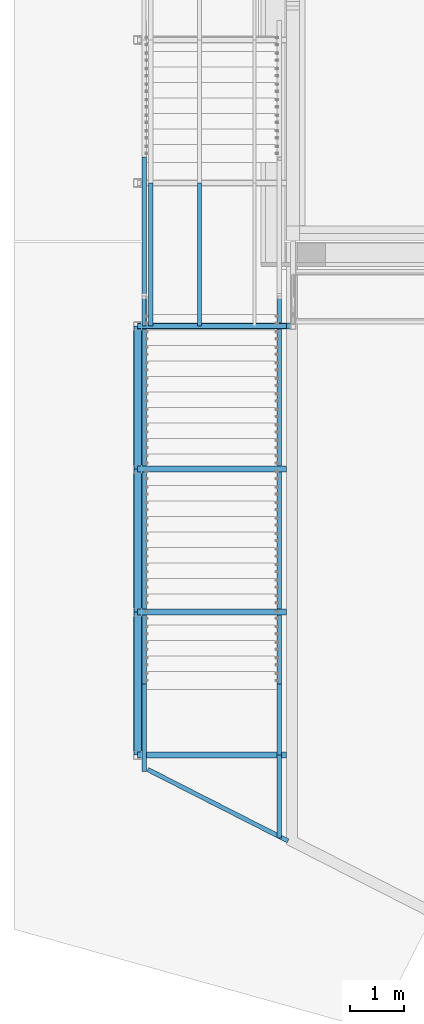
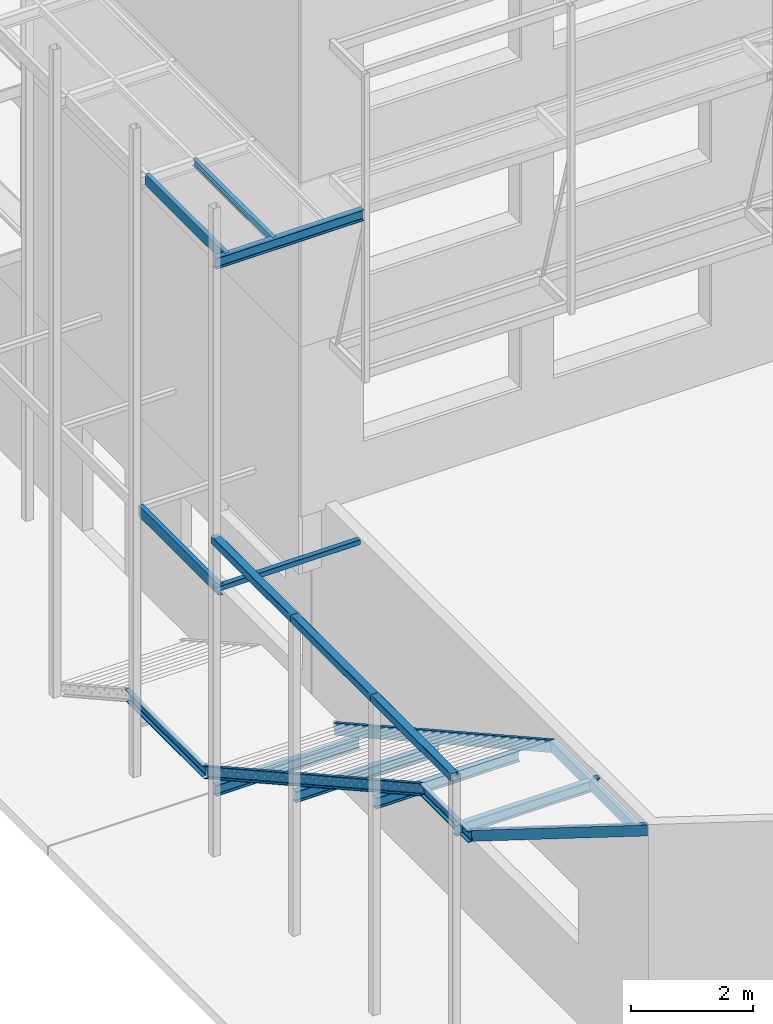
# One storey, part 19 of 78: 17 beams, 2 members, 17 elements without a shape of their own.
"""IFC2X3 building model written with IfcOpenShell, lengths in millimetres."""

from ifc_helpers import new_model, si_unit, frame, origin_with_axes, origin_2d_with_axis, place, context, subcontext, project, spatial, hollow_rectangle, i_section, u_section, extrude, clip, halfspace, material, type_object, element, aggregate, save


model = new_model("IFC2X3")

# Units and contexts
model_context = context("Model", 3, precision=1e-05, world=origin_with_axes())
body_context = subcontext(model_context, "Body", "Model", "MODEL_VIEW")
ifc_project = project(units=[si_unit("LENGTHUNIT", "METRE", prefix="MILLI"), si_unit("AREAUNIT", "SQUARE_METRE"), si_unit("VOLUMEUNIT", "CUBIC_METRE"), si_unit("MASSUNIT", "GRAM", prefix="KILO"), si_unit("TIMEUNIT", "SECOND"), si_unit("PLANEANGLEUNIT", "RADIAN"), si_unit("SOLIDANGLEUNIT", "STERADIAN"), si_unit("THERMODYNAMICTEMPERATUREUNIT", "DEGREE_CELSIUS"), si_unit("LUMINOUSINTENSITYUNIT", "LUMEN")], contexts=[model_context])

# Site, building, storey
site_placement = place(None, origin_with_axes())
site = spatial("IfcSite", under=ifc_project, at=site_placement, Name="Site", CompositionType="ELEMENT")
building_placement = place(site_placement, origin_with_axes())
building = spatial("IfcBuilding", under=site, at=building_placement, Name="Undefined", CompositionType="ELEMENT")
storey_placement = place(building_placement, origin_with_axes())
storey = spatial("IfcBuildingStorey", under=building, at=storey_placement, Name="Undefined", CompositionType="ELEMENT", Elevation=0.0)

# Assembly, beam
assembly_1_placement = place(storey_placement, origin_with_axes())
assembly_1 = element("IfcElementAssembly", 1, at=assembly_1_placement, inside=storey, AssemblyPlace="NOTDEFINED", PredefinedType="RIGID_FRAME")
ifc_material_1 = material(Name="STEEL/S235JR")
beam_type_1 = type_object("IfcBeamType", Name="UPN220", PredefinedType="NOTDEFINED")
beam_1_placement = place(assembly_1_placement, frame((-30736.43, -16532.0040553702, 153260.04001364), z_axis=(0.0, 0.0, -1.0), x_axis=(0.0, -1.0, 0.0)))
beam_1 = element("IfcBeam", 2, at=beam_1_placement, type_object=beam_type_1, material=ifc_material_1, Name="LIMON", ObjectType="UPN220", context=body_context, shape_type="SweptSolid", body=[
    extrude(u_section(Depth=220.0, FlangeWidth=80.0, WebThickness=9.0, FlangeThickness=12.5, FilletRadius=12.5, EdgeRadius=6.5, FlangeSlope=0.0798299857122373, at=origin_2d_with_axis()), frame((1517.82, 0.0, 0.0), z_axis=(-1.0, 0.0, 0.0), x_axis=(0.0, -1.0, 0.0)), (0.0, 0.0, 1.0), 1517.82),
])
aggregate(assembly_1, [beam_1])

assembly_2_placement = place(storey_placement, origin_with_axes())
assembly_2 = element("IfcElementAssembly", 3, at=assembly_2_placement, inside=storey, AssemblyPlace="NOTDEFINED", PredefinedType="RIGID_FRAME")
beam_2_placement = place(assembly_2_placement, frame((-30736.43, -16532.0040553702, 153260.04001364), z_axis=(0.0, 0.0, 1.0), x_axis=(0.0, 1.0, 0.0)))
beam_2 = element("IfcBeam", 4, at=beam_2_placement, type_object=beam_type_1, material=ifc_material_1, Name="LIMON", ObjectType="UPN220", context=body_context, shape_type="Clipping", body=[
    clip(extrude(u_section(Depth=220.0, FlangeWidth=80.0, WebThickness=9.0, FlangeThickness=12.5, FilletRadius=12.5, EdgeRadius=6.5, FlangeSlope=0.0798299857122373, at=origin_2d_with_axis()), frame((1304.05967117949, 0.0, 0.0), z_axis=(-1.0, 0.0, 0.0), x_axis=(0.0, -1.0, 0.0)), (0.0, 0.0, 1.0), 1304.06), halfspace(frame((1303.77358416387, -39.999999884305, 109.999999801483), z_axis=(-0.967803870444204, 0.0, 0.251705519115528), x_axis=(0.0, -1.0, 0.0)), True)),
])

assembly_3_placement = place(storey_placement, origin_with_axes())
assembly_3 = element("IfcElementAssembly", 5, at=assembly_3_placement, inside=storey, AssemblyPlace="NOTDEFINED", PredefinedType="RIGID_FRAME")
beam_3_placement = place(assembly_3_placement, frame((-33216.4300000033, -15228.2304689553, 153260.040013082), z_axis=(0.0, 0.0, 1.0), x_axis=(0.0, -1.0, 0.0)))
beam_3 = element("IfcBeam", 6, at=beam_3_placement, type_object=beam_type_1, material=ifc_material_1, Name="LIMON", ObjectType="UPN220", context=body_context, shape_type="Clipping", body=[
    clip(extrude(u_section(Depth=220.0, FlangeWidth=80.0, WebThickness=9.0, FlangeThickness=12.5, FilletRadius=12.5, EdgeRadius=6.5, FlangeSlope=0.0798299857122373, at=origin_2d_with_axis()), frame((1603.7735848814, 0.0, 0.0), z_axis=(-1.0, 0.0, 0.0), x_axis=(0.0, -1.0, 0.0)), (0.0, 0.0, 1.0), 1604.06), halfspace(frame((-1.64160519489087e-06, -39.9999999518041, 109.99999989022), z_axis=(-0.967803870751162, 0.0, -0.251705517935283), x_axis=(0.0, -1.0, 0.0)), False)),
])

assembly_4_placement = place(storey_placement, origin_with_axes())
assembly_4 = element("IfcElementAssembly", 7, at=assembly_4_placement, inside=storey, AssemblyPlace="NOTDEFINED", PredefinedType="RIGID_FRAME")
beam_4_placement = place(assembly_4_placement, frame((-33216.4300000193, -5553.23046907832, 149285.04001331), z_axis=(0.0, 0.0, 1.0), x_axis=(0.0, -1.0, 0.0)))
beam_4 = element("IfcBeam", 8, at=beam_4_placement, type_object=beam_type_1, material=ifc_material_1, Name="LIMON", ObjectType="UPN220", context=body_context, shape_type="Clipping", body=[
    clip(extrude(u_section(Depth=220.0, FlangeWidth=80.0, WebThickness=9.0, FlangeThickness=12.5, FilletRadius=12.5, EdgeRadius=6.5, FlangeSlope=0.0798299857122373, at=origin_2d_with_axis()), frame((2553.77358483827, 0.0, 0.0), z_axis=(-1.0, 0.0, 0.0), x_axis=(0.0, -1.0, 0.0)), (0.0, 0.0, 1.0), 2554.06), halfspace(frame((-1.64160519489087e-06, -39.9999999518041, 109.99999989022), z_axis=(-0.967803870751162, 0.0, -0.251705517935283), x_axis=(0.0, -1.0, 0.0)), False)),
])
aggregate(assembly_4, [beam_4])

assembly_5_placement = place(storey_placement, origin_with_axes())
assembly_5 = element("IfcElementAssembly", 9, at=assembly_5_placement, inside=storey, Name="POUTRE", AssemblyPlace="NOTDEFINED", PredefinedType="RIGID_FRAME")
ifc_material_2 = material(Name="STEEL/S275JR")
beam_5_placement = place(assembly_5_placement, frame((-33154.7863721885, -16794.5155558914, 153260.040011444), z_axis=(0.0, 0.0, -1.0), x_axis=(0.891212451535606, -0.453586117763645, 0.0)))
beam_5 = element("IfcBeam", 10, at=beam_5_placement, type_object=beam_type_1, material=ifc_material_2, Name="POUTRE", ObjectType="UPN220", context=body_context, shape_type="SweptSolid", body=[
    extrude(u_section(Depth=220.0, FlangeWidth=80.0, WebThickness=9.0, FlangeThickness=12.5, FilletRadius=12.5, EdgeRadius=6.5, FlangeSlope=0.0798299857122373, at=origin_2d_with_axis()), frame((2889.99643857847, -1.60427029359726e-13, 2.91038304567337e-11), z_axis=(-1.0, 0.0, 0.0), x_axis=(0.0, -1.0, 0.0)), (0.0, 0.0, 1.0), 2890.0),
])
aggregate(assembly_5, [beam_5])

assembly_6_placement = place(storey_placement, origin_with_axes())
assembly_6 = element("IfcElementAssembly", 11, at=assembly_6_placement, inside=storey, AssemblyPlace="NOTDEFINED", PredefinedType="RIGID_FRAME")
beam_6_placement = place(assembly_6_placement, frame((-33223.4299999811, -6028.00000000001, 153260.039237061), z_axis=(0.0, 0.0, -1.0), x_axis=(0.0, -1.0, 0.0)))
beam_6 = element("IfcBeam", 12, at=beam_6_placement, type_object=beam_type_1, material=ifc_material_2, Name="SOLIVE", ObjectType="UPN220", context=body_context, shape_type="SweptSolid", body=[
    extrude(u_section(Depth=220.0, FlangeWidth=80.0, WebThickness=9.0, FlangeThickness=12.5, FilletRadius=12.5, EdgeRadius=6.5, FlangeSlope=0.0798299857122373, at=origin_2d_with_axis()), frame((2626.0, 0.0, 0.0), z_axis=(-1.0, 0.0, 0.0), x_axis=(0.0, -1.0, 0.0)), (0.0, 0.0, 1.0), 2626.0),
])
aggregate(assembly_6, [beam_6])

assembly_7_placement = place(storey_placement, origin_with_axes())
assembly_7 = element("IfcElementAssembly", 13, at=assembly_7_placement, inside=storey, AssemblyPlace="NOTDEFINED", PredefinedType="RIGID_FRAME")
beam_7_placement = place(assembly_7_placement, frame((-33101.4299999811, -6028.00000000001, 159860.039237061), z_axis=(0.0, 0.0, -1.0), x_axis=(0.0, -1.0, 0.0)))
beam_7 = element("IfcBeam", 14, at=beam_7_placement, type_object=beam_type_1, material=ifc_material_2, Name="SOLIVE", ObjectType="UPN220", context=body_context, shape_type="SweptSolid", body=[
    extrude(u_section(Depth=220.0, FlangeWidth=80.0, WebThickness=9.0, FlangeThickness=12.5, FilletRadius=12.5, EdgeRadius=6.5, FlangeSlope=0.0798299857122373, at=origin_2d_with_axis()), frame((2626.0, 0.0, 0.0), z_axis=(-1.0, 0.0, 0.0), x_axis=(0.0, -1.0, 0.0)), (0.0, 0.0, 1.0), 2626.0),
])
aggregate(assembly_7, [beam_7])

assembly_8_placement = place(storey_placement, origin_with_axes())
assembly_8 = element("IfcElementAssembly", 15, at=assembly_8_placement, inside=storey, AssemblyPlace="NOTDEFINED", PredefinedType="RIGID_FRAME")
beam_type_2 = type_object("IfcBeamType", Name="TUBE-C-150*150*5", PredefinedType="NOTDEFINED")
beam_8_placement = place(assembly_8_placement, frame((-33338.43, -8654.00000000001, 154325.04), z_axis=(0.0, 0.0, -1.0), x_axis=(0.0, -1.0, 0.0)))
beam_8 = element("IfcBeam", 16, at=beam_8_placement, type_object=beam_type_2, material=ifc_material_2, Name="SOLIVE", ObjectType="TUBE-C-150*150*5", context=body_context, shape_type="SweptSolid", body=[
    extrude(hollow_rectangle(XDim=150.0, YDim=150.0, WallThickness=5.0, InnerFilletRadius=5.0, OuterFilletRadius=10.0, at=origin_2d_with_axis()), frame((2626.0, 0.0, 0.0), z_axis=(-1.0, 0.0, 0.0), x_axis=(0.0, -1.0, 0.0)), (0.0, 0.0, 1.0), 2626.0),
])
aggregate(assembly_8, [beam_8])

assembly_9_placement = place(storey_placement, origin_with_axes())
assembly_9 = element("IfcElementAssembly", 17, at=assembly_9_placement, inside=storey, AssemblyPlace="NOTDEFINED", PredefinedType="RIGID_FRAME")
beam_9_placement = place(assembly_9_placement, frame((-33338.43, -13906.0, 154325.04), z_axis=(0.0, 0.0, -1.0), x_axis=(0.0, -1.0, 0.0)))
beam_9 = element("IfcBeam", 18, at=beam_9_placement, type_object=beam_type_2, material=ifc_material_2, Name="SOLIVE", ObjectType="TUBE-C-150*150*5", context=body_context, shape_type="SweptSolid", body=[
    extrude(hollow_rectangle(XDim=150.0, YDim=150.0, WallThickness=5.0, InnerFilletRadius=5.0, OuterFilletRadius=10.0, at=origin_2d_with_axis()), frame((2626.0, 0.0, 0.0), z_axis=(-1.0, 0.0, 0.0), x_axis=(0.0, -1.0, 0.0)), (0.0, 0.0, 1.0), 2626.0),
])
aggregate(assembly_9, [beam_9])

assembly_10_placement = place(storey_placement, origin_with_axes())
assembly_10 = element("IfcElementAssembly", 19, at=assembly_10_placement, inside=storey, AssemblyPlace="NOTDEFINED", PredefinedType="RIGID_FRAME")
beam_10_placement = place(assembly_10_placement, frame((-33338.43, -11280.0, 154325.04), z_axis=(0.0, 0.0, -1.0), x_axis=(0.0, -1.0, 0.0)))
beam_10 = element("IfcBeam", 20, at=beam_10_placement, type_object=beam_type_2, material=ifc_material_2, Name="SOLIVE", ObjectType="TUBE-C-150*150*5", context=body_context, shape_type="SweptSolid", body=[
    extrude(hollow_rectangle(XDim=150.0, YDim=150.0, WallThickness=5.0, InnerFilletRadius=5.0, OuterFilletRadius=10.0, at=origin_2d_with_axis()), frame((2626.0, 0.0, 0.0), z_axis=(-1.0, 0.0, 0.0), x_axis=(0.0, -1.0, 0.0)), (0.0, 0.0, 1.0), 2626.0),
])
aggregate(assembly_10, [beam_10])

assembly_11_placement = place(storey_placement, origin_with_axes())
assembly_11 = element("IfcElementAssembly", 21, at=assembly_11_placement, inside=storey, AssemblyPlace="NOTDEFINED", PredefinedType="RIGID_FRAME")
beam_type_3 = type_object("IfcBeamType", Name="IPE140", PredefinedType="NOTDEFINED")
beam_11_placement = place(assembly_11_placement, frame((-32206.4299999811, -8654.00000000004, 159900.039237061), z_axis=(0.0, 0.0, -1.0), x_axis=(0.0, 1.0, 0.0)))
beam_11 = element("IfcBeam", 22, at=beam_11_placement, type_object=beam_type_3, material=ifc_material_2, Name="SOLIVE", ObjectType="IPE140", context=body_context, shape_type="SweptSolid", body=[
    extrude(i_section(OverallWidth=73.0, OverallDepth=140.0, WebThickness=4.699999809, FlangeThickness=6.900000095, FilletRadius=7.0, at=origin_2d_with_axis()), frame((2626.0, 0.0, 0.0), z_axis=(-1.0, 0.0, 0.0), x_axis=(0.0, -1.0, 0.0)), (0.0, 0.0, 1.0), 2626.0),
])
aggregate(assembly_11, [beam_11])

# Member
member_type = type_object("IfcMemberType", Name="UPN220", PredefinedType="NOTDEFINED")
member_1_placement = place(assembly_2_placement, frame((-30736.430000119, -15281.8228156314, 153273.978260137), z_axis=(0.0, 0.487203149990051, 0.873288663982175), x_axis=(0.0, 0.873288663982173, -0.487203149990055)))
member_1 = element("IfcMember", 23, at=member_1_placement, type_object=member_type, material=ifc_material_1, Name="LIMON", ObjectType="UPN220", context=body_context, shape_type="Clipping", body=[
    clip(clip(extrude(u_section(Depth=220.0, FlangeWidth=80.0, WebThickness=9.0, FlangeThickness=12.5, FilletRadius=12.5, EdgeRadius=6.5, FlangeSlope=0.0798299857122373, at=origin_2d_with_axis()), frame((8346.1464577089, 0.0, 0.0), z_axis=(-1.0, 0.0, 0.0), x_axis=(0.0, -1.0, 0.0)), (0.0, 0.0, 1.0), 8476.26), halfspace(frame((8158.81424812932, -4.94885171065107e-07, 110.000000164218), z_axis=(0.967803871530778, 0.0, 0.251705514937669), x_axis=(0.0, 1.0, 0.0)), False)), halfspace(frame((-1.64160519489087e-06, -39.9999999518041, 109.99999989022), z_axis=(-0.967803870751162, 0.0, -0.251705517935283), x_axis=(0.0, -1.0, 0.0)), False)),
])

aggregate(assembly_2, [beam_2, member_1])

member_2_placement = place(assembly_3_placement, frame((-33216.4300000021, -8156.82281553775, 149298.978258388), z_axis=(0.0, 0.487203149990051, 0.873288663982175), x_axis=(0.0, -0.873288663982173, 0.487203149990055)))
member_2 = element("IfcMember", 24, at=member_2_placement, type_object=member_type, material=ifc_material_1, Name="LIMON", ObjectType="UPN220", context=body_context, shape_type="Clipping", body=[
    clip(clip(extrude(u_section(Depth=220.0, FlangeWidth=80.0, WebThickness=9.0, FlangeThickness=12.5, FilletRadius=12.5, EdgeRadius=6.5, FlangeSlope=0.0798299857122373, at=origin_2d_with_axis()), frame((8288.92906442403, 0.0, -4.60127994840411e-13), z_axis=(-1.0, 0.0, 0.0), x_axis=(0.0, -1.0, 0.0)), (0.0, 0.0, 1.0), 8476.26), halfspace(frame((8158.81424748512, -40.0, 109.999999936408), z_axis=(-0.967803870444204, 0.0, 0.251705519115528), x_axis=(0.0, -1.0, 0.0)), True)), halfspace(frame((-5.94641824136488e-06, 2.39502696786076e-07, 109.999999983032), z_axis=(-0.967803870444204, 0.0, 0.251705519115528), x_axis=(0.0, -1.0, 0.0)), False)),
])

aggregate(assembly_3, [beam_3, member_2])

# Assembly, beam
assembly_12_placement = place(storey_placement, origin_with_axes())
assembly_12 = element("IfcElementAssembly", 25, at=assembly_12_placement, inside=storey, Name="POUTRE", AssemblyPlace="NOTDEFINED", PredefinedType="RIGID_FRAME")
beam_type_4 = type_object("IfcBeamType", Name="IPE220", PredefinedType="NOTDEFINED")
beam_12_placement = place(assembly_12_placement, frame((-33338.4298168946, -13906.0040539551, 152220.45317306), z_axis=(0.0, 0.0, -1.0), x_axis=(1.0, 0.0, 0.0)))
beam_12 = element("IfcBeam", 26, at=beam_12_placement, type_object=beam_type_4, material=ifc_material_2, Name="POUTRE", ObjectType="IPE220", context=body_context, shape_type="SweptSolid", body=[
    extrude(i_section(OverallWidth=110.0, OverallDepth=220.0, WebThickness=5.900000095, FlangeThickness=9.199999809, FilletRadius=12.0, at=origin_2d_with_axis()), frame((2733.43, 0.0, 0.0), z_axis=(-1.0, 0.0, 0.0), x_axis=(0.0, -1.0, 0.0)), (0.0, 0.0, 1.0), 2733.43),
])
aggregate(assembly_12, [beam_12])

assembly_13_placement = place(storey_placement, origin_with_axes())
assembly_13 = element("IfcElementAssembly", 27, at=assembly_13_placement, inside=storey, Name="POUTRE", AssemblyPlace="NOTDEFINED", PredefinedType="RIGID_FRAME")
beam_13_placement = place(assembly_13_placement, frame((-33338.4298168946, -11280.0040539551, 150755.421592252), z_axis=(0.0, 0.0, -1.0), x_axis=(1.0, 0.0, 0.0)))
beam_13 = element("IfcBeam", 28, at=beam_13_placement, type_object=beam_type_4, material=ifc_material_2, Name="POUTRE", ObjectType="IPE220", context=body_context, shape_type="SweptSolid", body=[
    extrude(i_section(OverallWidth=110.0, OverallDepth=220.0, WebThickness=5.900000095, FlangeThickness=9.199999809, FilletRadius=12.0, at=origin_2d_with_axis()), frame((2733.43, 0.0, 0.0), z_axis=(-1.0, 0.0, 0.0), x_axis=(0.0, -1.0, 0.0)), (0.0, 0.0, 1.0), 2733.43),
])
aggregate(assembly_13, [beam_13])

assembly_14_placement = place(storey_placement, origin_with_axes())
assembly_14 = element("IfcElementAssembly", 29, at=assembly_14_placement, inside=storey, Name="POUTRE", AssemblyPlace="NOTDEFINED", PredefinedType="RIGID_FRAME")
beam_14_placement = place(assembly_14_placement, frame((-33338.4298168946, -8654.00405395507, 149290.390011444), z_axis=(0.0, 0.0, -1.0), x_axis=(1.0, 0.0, 0.0)))
beam_14 = element("IfcBeam", 30, at=beam_14_placement, type_object=beam_type_4, material=ifc_material_2, Name="POUTRE", ObjectType="IPE220", context=body_context, shape_type="SweptSolid", body=[
    extrude(i_section(OverallWidth=110.0, OverallDepth=220.0, WebThickness=5.900000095, FlangeThickness=9.199999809, FilletRadius=12.0, at=origin_2d_with_axis()), frame((2733.43, 0.0, 0.0), z_axis=(-1.0, 0.0, 0.0), x_axis=(0.0, -1.0, 0.0)), (0.0, 0.0, 1.0), 2733.43),
])
aggregate(assembly_14, [beam_14])

assembly_15_placement = place(storey_placement, origin_with_axes())
assembly_15 = element("IfcElementAssembly", 31, at=assembly_15_placement, inside=storey, Name="POUTRE", AssemblyPlace="NOTDEFINED", PredefinedType="RIGID_FRAME")
beam_15_placement = place(assembly_15_placement, frame((-33338.4298168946, -16532.0040539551, 153260.040011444), z_axis=(0.0, 0.0, -1.0), x_axis=(1.0, 0.0, 0.0)))
beam_15 = element("IfcBeam", 32, at=beam_15_placement, type_object=beam_type_4, material=ifc_material_2, Name="POUTRE", ObjectType="IPE220", context=body_context, shape_type="SweptSolid", body=[
    extrude(i_section(OverallWidth=110.0, OverallDepth=220.0, WebThickness=5.900000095, FlangeThickness=9.199999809, FilletRadius=12.0, at=origin_2d_with_axis()), frame((2733.43, 0.0, 0.0), z_axis=(-1.0, 0.0, 0.0), x_axis=(0.0, -1.0, 0.0)), (0.0, 0.0, 1.0), 2733.43),
])
aggregate(assembly_15, [beam_15])

assembly_16_placement = place(storey_placement, origin_with_axes())
assembly_16 = element("IfcElementAssembly", 33, at=assembly_16_placement, inside=storey, Name="CONSOLE", AssemblyPlace="NOTDEFINED", PredefinedType="RIGID_FRAME")
beam_16_placement = place(assembly_16_placement, frame((-33338.430029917, -8654.0, 159860.04), z_axis=(0.0, 0.0, -1.0), x_axis=(1.0, 0.0, 0.0)))
beam_16 = element("IfcBeam", 34, at=beam_16_placement, type_object=beam_type_4, material=ifc_material_2, Name="CONSOLE", ObjectType="IPE220", context=body_context, shape_type="SweptSolid", body=[
    extrude(i_section(OverallWidth=110.0, OverallDepth=220.0, WebThickness=5.900000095, FlangeThickness=9.199999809, FilletRadius=12.0, at=origin_2d_with_axis()), frame((2803.42999999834, 0.0, 0.0), z_axis=(-1.0, 0.0, 0.0), x_axis=(0.0, -1.0, 0.0)), (0.0, 0.0, 1.0), 2803.43),
])
aggregate(assembly_16, [beam_16])

assembly_17_placement = place(storey_placement, origin_with_axes())
assembly_17 = element("IfcElementAssembly", 35, at=assembly_17_placement, inside=storey, Name="CONSOLE", AssemblyPlace="NOTDEFINED", PredefinedType="RIGID_FRAME")
beam_type_5 = type_object("IfcBeamType", Name="TUBE-C-100*100*4", PredefinedType="NOTDEFINED")
beam_17_placement = place(assembly_17_placement, frame((-33338.4300139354, -8654.0, 153320.04), z_axis=(0.0, 0.0, -1.0), x_axis=(1.0, 0.0, 0.0)))
beam_17 = element("IfcBeam", 36, at=beam_17_placement, type_object=beam_type_5, material=ifc_material_2, Name="CONSOLE", ObjectType="TUBE-C-100*100*4", context=body_context, shape_type="SweptSolid", body=[
    extrude(hollow_rectangle(XDim=100.0, YDim=100.0, WallThickness=4.0, InnerFilletRadius=4.0, OuterFilletRadius=8.0, at=origin_2d_with_axis()), frame((2733.43, 0.0, 0.0), z_axis=(-1.0, 0.0, 0.0), x_axis=(0.0, -1.0, 0.0)), (0.0, 0.0, 1.0), 2733.43),
])
aggregate(assembly_17, [beam_17])

save(model, "model.ifc")
